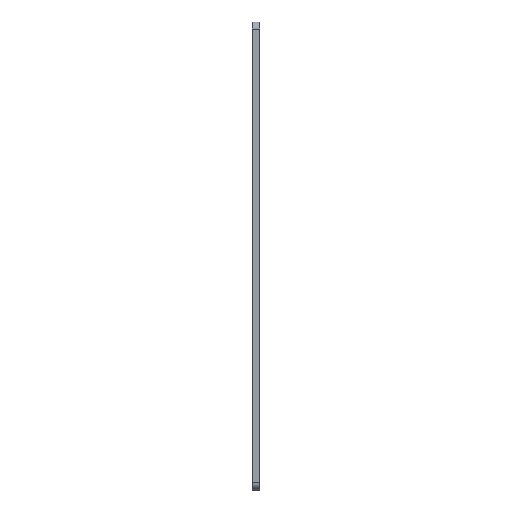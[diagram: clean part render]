
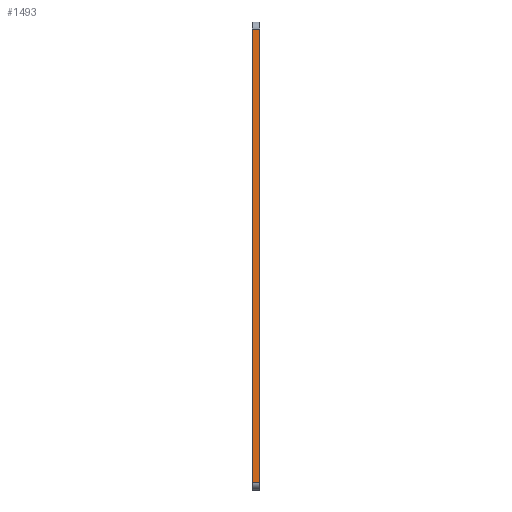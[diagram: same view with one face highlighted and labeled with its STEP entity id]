
A CAD part, left-side view. The second image highlights one B-rep face of the part: STEP entity #1493.
In plain terms, the highlighted planar face has unit normal (-1, 0, 0).
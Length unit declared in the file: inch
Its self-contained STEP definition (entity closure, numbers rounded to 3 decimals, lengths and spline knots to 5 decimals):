
#30 = ORIENTED_EDGE ( 'NONE', *, *, #88, .F. ) ;
#63 = VECTOR ( 'NONE', #257, 39.37008 ) ;
#88 = EDGE_CURVE ( 'NONE', #1349, #1358, #605, .T. ) ;
#103 = FACE_OUTER_BOUND ( 'NONE', #1509, .T. ) ;
#174 = CARTESIAN_POINT ( 'NONE',  ( 0., 0.125, 16.25 ) ) ;
#179 = CARTESIAN_POINT ( 'NONE',  ( 0., -0.125, 0. ) ) ;
#215 = VERTEX_POINT ( 'NONE', #499 ) ;
#230 = CARTESIAN_POINT ( 'NONE',  ( 0., 0.125, 0.25 ) ) ;
#257 = DIRECTION ( 'NONE',  ( 0., -1., 0. ) ) ;
#345 = ORIENTED_EDGE ( 'NONE', *, *, #1267, .T. ) ;
#366 = LINE ( 'NONE', #230, #63 ) ;
#427 = LINE ( 'NONE', #174, #1222 ) ;
#444 = DIRECTION ( 'NONE',  ( 1., 0., 0. ) ) ;
#461 = VECTOR ( 'NONE', #1015, 39.37008 ) ;
#499 = CARTESIAN_POINT ( 'NONE',  ( 0., -0.125, 0.25 ) ) ;
#533 = VECTOR ( 'NONE', #727, 39.37008 ) ;
#605 = LINE ( 'NONE', #849, #533 ) ;
#640 = EDGE_CURVE ( 'NONE', #215, #1285, #1515, .T. ) ;
#699 = CARTESIAN_POINT ( 'NONE',  ( 0., 0.125, 0. ) ) ;
#727 = DIRECTION ( 'NONE',  ( 0., 0., 1. ) ) ;
#755 = CARTESIAN_POINT ( 'NONE',  ( 0., -0.125, 16.25 ) ) ;
#780 = CARTESIAN_POINT ( 'NONE',  ( 0., 0.125, 16.25 ) ) ;
#816 = ORIENTED_EDGE ( 'NONE', *, *, #640, .T. ) ;
#849 = CARTESIAN_POINT ( 'NONE',  ( 0., 0.125, 0. ) ) ;
#940 = AXIS2_PLACEMENT_3D ( 'NONE', #699, #444, #1033 ) ;
#1015 = DIRECTION ( 'NONE',  ( 0., 0., 1. ) ) ;
#1021 = CARTESIAN_POINT ( 'NONE',  ( 0., 0.125, 0.25 ) ) ;
#1024 = EDGE_CURVE ( 'NONE', #1349, #215, #366, .T. ) ;
#1033 = DIRECTION ( 'NONE',  ( 0., 0., -1. ) ) ;
#1222 = VECTOR ( 'NONE', #1498, 39.37008 ) ;
#1267 = EDGE_CURVE ( 'NONE', #1285, #1358, #427, .T. ) ;
#1285 = VERTEX_POINT ( 'NONE', #755 ) ;
#1349 = VERTEX_POINT ( 'NONE', #1021 ) ;
#1358 = VERTEX_POINT ( 'NONE', #780 ) ;
#1415 = PLANE ( 'NONE',  #940 ) ;
#1493 = ADVANCED_FACE ( 'NONE', ( #103 ), #1415, .F. ) ;
#1498 = DIRECTION ( 'NONE',  ( 0., 1., 0. ) ) ;
#1509 = EDGE_LOOP ( 'NONE', ( #816, #345, #30, #1556 ) ) ;
#1515 = LINE ( 'NONE', #179, #461 ) ;
#1556 = ORIENTED_EDGE ( 'NONE', *, *, #1024, .T. ) ;
